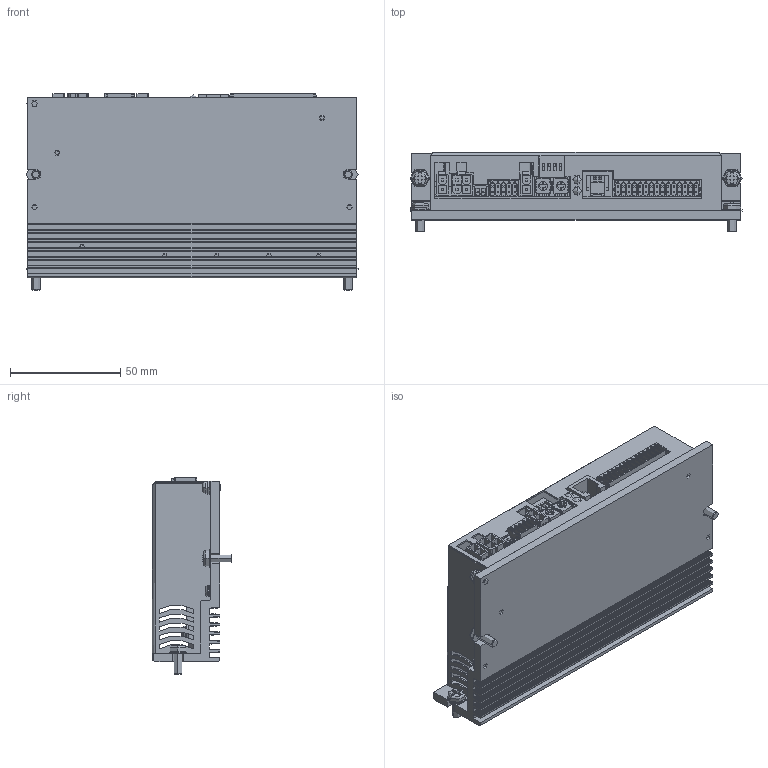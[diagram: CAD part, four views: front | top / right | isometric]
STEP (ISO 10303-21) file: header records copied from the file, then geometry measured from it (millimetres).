
FILE_DESCRIPTION((''),'2;1');
FILE_NAME('SW4_ASM','2020-07-28T16:57:41',('Matteo Maccalli'),(''),'CREO PARAMETRIC BY PTC INC, 2019344','CREO PARAMETRIC BY PTC INC, 2019344','');
FILE_SCHEMA(('AUTOMOTIVE_DESIGN { 1 0 10303 214 1 1 1 1 }'));
Products named in the file (60): ESTRUSO_IMD03-00; AD_00907-00_IMD03_00; SCATOLA_LW4_IMD03_00; MAR-PN4; TCC_M4X10_AF0; TCC_M4X10_AF1; TCC_M4X10_AF2; TCC_M4X10_AF3; TCC_M2E5X04_AF0; TCC_M2E5X04_AF1; MAR-PN3; RONDELLA_DENTELLATA; TCC_M3X06_AF0; DIST_MF_M2E5X5_FIL4; BOARD-93; BOARD-16068; A6E-4104; DIP100_ASM; IMD03DIP-00_ASM; J403_ASM; 5151061F; GL400_ASM; DMC_0_5-15-G-2_54_THR; DMC_0_5_15-G1-2_54_P20THR_ASM_ASM; 1844853_01_ASM; CN3_ASM; DMC_0_5-5-G-2_54_THR; 1844756_ASM; CN4_ASM; 955012641_DARKGREY; CN6_ASM; RTE0400V04; SW400_ASM; SW401_ASM; SOLID-292681; COMPOUND-298927; MOLEX_039300020_ASM; CN1L_ASM; CN1_ASM; SOLID-268818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
Assembly tree (70 placements, depth 7):
  SW4_ASM
    ESTRUSO_IMD03-00
    AD_00907-00_IMD03_00
    SCATOLA_LW4_IMD03_00
    MAR-PN4  x4
    TCC_M4X10_AF0
    TCC_M4X10_AF1
    TCC_M4X10_AF2
    TCC_M4X10_AF3
    TCC_M2E5X04_AF0
    TCC_M2E5X04_AF1
    MAR-PN3
    RONDELLA_DENTELLATA
    TCC_M3X06_AF0
    DIST_MF_M2E5X5_FIL4  x2
    ASM0054_ASM
      PCB_ASM
        BOARD-93
        J403_ASM
          IMD03DIP-00_ASM
            BOARD-16068
            DIP100_ASM
              A6E-4104
        GL400_ASM
          5151061F
        CN3_ASM
          1844853_01_ASM
            DMC_0_5_15-G1-2_54_P20THR_ASM_ASM
              DMC_0_5-15-G-2_54_THR
        CN4_ASM
          1844756_ASM
            DMC_0_5-5-G-2_54_THR
        CN6_ASM
          955012641_DARKGREY
        SW400_ASM
          RTE0400V04
        SW401_ASM
          RTE0400V04
        CN1L_ASM
          MOLEX_039300020_ASM
            SOLID-292681
            COMPOUND-298927
        CN1_ASM
          MOLEX_039300020_ASM
            SOLID-292681
            COMPOUND-298927
        CN2_ASM
          MOLEX_039300040_ASM
            SOLID-268818
            COMPOUND-277384
        DP200_ASM
          PONTE_GSIB254_TERMINALI_5_1
        JMP500_ASM
          877600416
        T200_ASM
          E13
        CE200_ASM
          CE_18X40_P7E62_ORRIZZONTALE
        CN7_ASM
          ASM0056_ASM
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Bounding box: 150.5 x 36.2 x 88.95 mm (x, y, z)
Topology: 35 solids, 281 shells, 5437 faces, 15891 edges, 10409 vertices
Faces by surface type: plane 4229, cylinder 786, bspline 168, sphere 92, torus 72, extrusion 54, cone 36
Full cylindrical faces by diameter (mm): 0.2 x2, 0.4 x4, 0.6 x44, 0.7 x16, 1 x18, 1.2 x44, 2.2 x2, 2.5 x8, 3 x2, 3.5 x6
Entity records: 218760 total; most frequent: CARTESIAN_POINT 50678, ORIENTED_EDGE 25322, DIRECTION 22967, EDGE_CURVE 13893, PRESENTATION_STYLE_ASSIGNMENT 12153, VECTOR 10513, STYLED_ITEM 10463, LINE 10459
